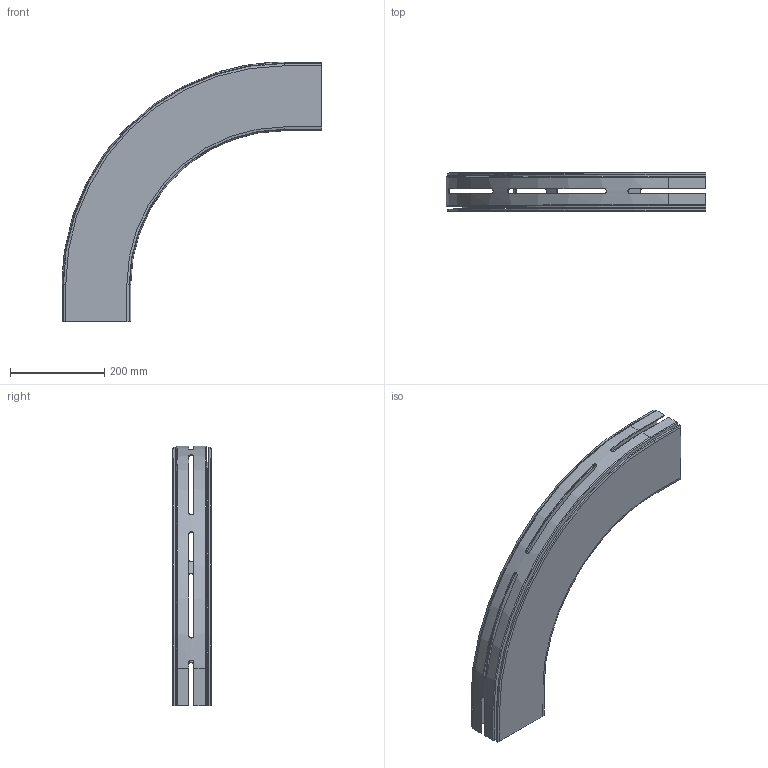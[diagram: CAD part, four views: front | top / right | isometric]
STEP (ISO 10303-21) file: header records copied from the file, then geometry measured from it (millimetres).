
FILE_DESCRIPTION(/* description */ ('GLIDKURVA SERIE 540'),/* implementation_level */ '2;1');
FILE_NAME(/* name */ '540-5375+140-2000-01.stp',/* time_stamp */ '2022-09-21T08:26:54+02:00',/* author */ ('Mathias.Dore'),/* organization */ ('CARRYLINE'),/* preprocessor_version */ 'ST-DEVELOPER v19.2',/* originating_system */ 'Autodesk Inventor 2023',/* authorisation */ '');
FILE_SCHEMA (('AUTOMOTIVE_DESIGN { 1 0 10303 214 3 1 1 }'));
Length unit declared in the file: millimetre
Products named in the file (1): 540-5375+140-2000-01
Bounding box: 553 x 82 x 553 mm (x, y, z)
Volume: 1779751.7 mm3; surface area: 916617.9 mm2
Topology: 2 solids, 2 shells, 183 faces, 506 edges, 332 vertices
Faces by surface type: plane 121, cylinder 28, bspline 26, cone 4, torus 4
Entity records: 6609 total; most frequent: CARTESIAN_POINT 1908, ORIENTED_EDGE 1012, DIRECTION 866, EDGE_CURVE 506, LINE 358, VECTOR 358, VERTEX_POINT 332, AXIS2_PLACEMENT_3D 254
